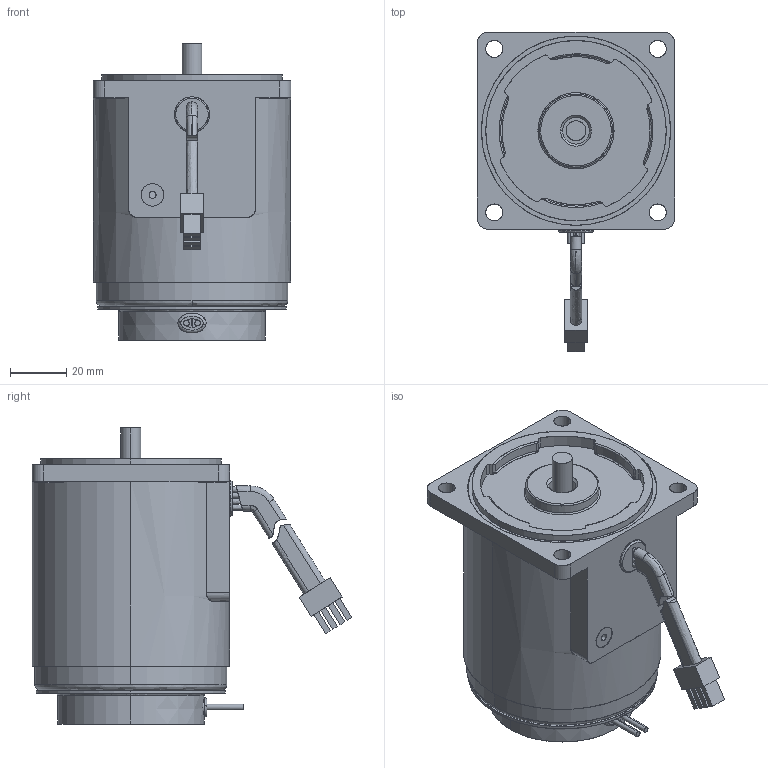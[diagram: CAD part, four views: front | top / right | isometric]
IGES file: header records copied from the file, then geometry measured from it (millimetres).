
Start section: SolidWorks IGES file using analytic representation for surfaces
Global section: file name: \\楷备家烹钦辑滚\data (D)\档搁 枚\权其捞瘤 档搁\7. SPEED INDUCTION\70\15W\(7-14) 7SDG∴-15G.IGS; native system: SolidWorks 2007; preprocessor: SolidWorks 2007; author: user; date: 150702.114023; units: millimetre
Bounding box: 70 x 113.4 x 105 mm (x, y, z)
Surface area: 71232 mm2 (no closed solid volume)
Topology: 0 solids, 0 shells, 302 faces, 5367 edges, 5367 vertices
Faces by surface type: bspline 183, revolution 119
